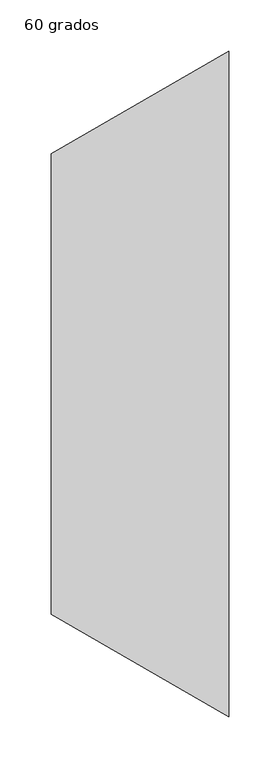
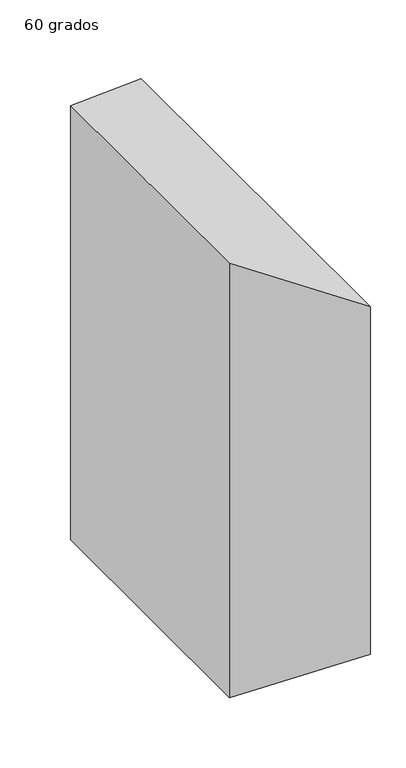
"""IFC4 building model written with IfcOpenShell, lengths in millimetres: duct fitting geometry, M_Transición rectangular - Ángulo : 60 grados."""

from ifc_helpers import new_model, si_unit, origin, place, context, project, spatial, faceted_brep, source, transform, mapped, element, save


def duct_fitting_60_grados_ef66907e(model_context):
    return source(origin(), model_context, "Body", "Brep", [
        faceted_brep([(173.2050808, -325.0, 300.0), (173.2050808, -325.0, -300.0), (173.2050808, 325.0, -300.0), (173.2050808, 325.0, 300.0), (0.0, -225.0, 375.0), (0.0, 225.0, 375.0), (0.0, 225.0, -375.0), (0.0, -225.0, -375.0)], [[[0, 1, 2, 3]], [[4, 5, 6, 7]], [[4, 7, 1, 0]], [[7, 6, 2, 1]], [[6, 5, 3, 2]], [[5, 4, 0, 3]]]),
    ])


if __name__ == "__main__":
    model = new_model("IFC4")
    model_context = context("Model", 3, world=origin())
    ifc_project = project(units=[si_unit("LENGTHUNIT", "METRE", prefix="MILLI")], contexts=[model_context])
    site = spatial("IfcSite", under=ifc_project)
    building = spatial("IfcBuilding", under=site)
    placement = place(None, origin())
    duct_fitting_60_grados_shape = duct_fitting_60_grados_ef66907e(model_context)
    element("IfcDuctFitting", 1, ObjectType="M_Transición rectangular - Ángulo : 60 grados", at=placement, inside=building, context=model_context, shape_type="MappedRepresentation", body=[
        mapped(duct_fitting_60_grados_shape, transform((0.0, 0.0, 0.0), x_axis=(1.0, 0.0, 0.0), y_axis=(0.0, 1.0, 0.0), z_axis=(0.0, 0.0, 1.0))),
    ])
    save(model, "model.ifc")
